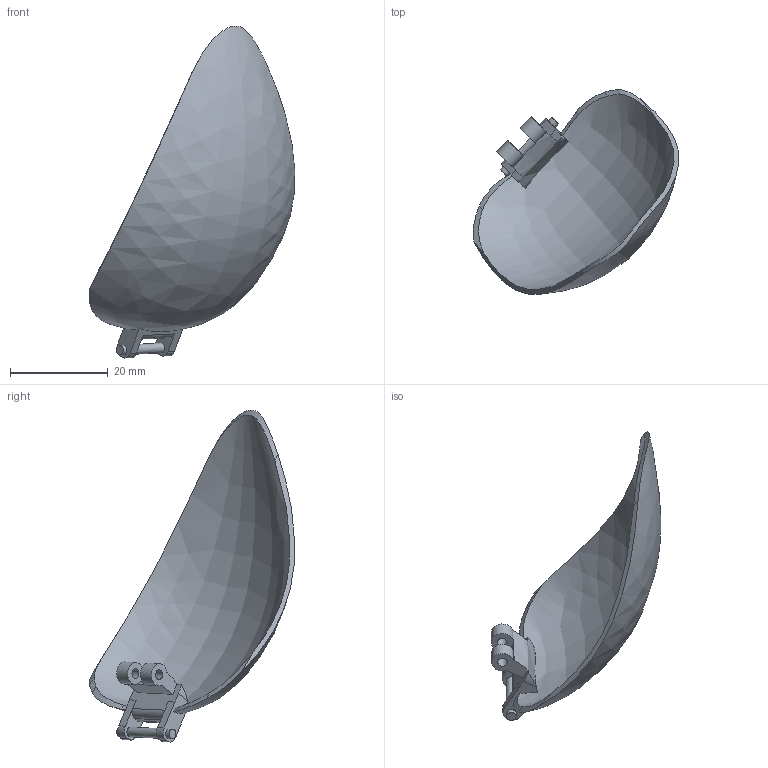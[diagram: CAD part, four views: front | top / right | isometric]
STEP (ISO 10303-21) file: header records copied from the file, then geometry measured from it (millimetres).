
FILE_DESCRIPTION(/* description */ (''),/* implementation_level */ '2;1');
FILE_NAME(/* name */ 'PetalFP.step',/* time_stamp */ '2025-06-18T12:18:39+05:30',/* author */ (''),/* organization */ (''),/* preprocessor_version */ 'ST-DEVELOPER v20.1',/* originating_system */ 'Autodesk Translation Framework v14.10.0.0',/* authorisation */ '');
FILE_SCHEMA (('AUTOMOTIVE_DESIGN { 1 0 10303 214 3 1 1 }'));
Length unit declared in the file: millimetre
Products named in the file (2): week16petal (v2~recovered); Component2
Assembly tree (1 placements, depth 2):
  week16petal (v2~recovered)
    Component2
Bounding box: 42.04 x 41.96 x 67.9 mm (x, y, z)
Volume: 3396.1 mm3; surface area: 6541.2 mm2
Topology: 2 solids, 2 shells, 53 faces, 143 edges, 96 vertices
Faces by surface type: plane 28, cylinder 19, bspline 6
Full cylindrical faces by diameter (mm): 2 x6
Entity records: 2910 total; most frequent: CARTESIAN_POINT 1557, ORIENTED_EDGE 286, DIRECTION 244, EDGE_CURVE 143, VERTEX_POINT 96, AXIS2_PLACEMENT_3D 90, LINE 64, VECTOR 64
